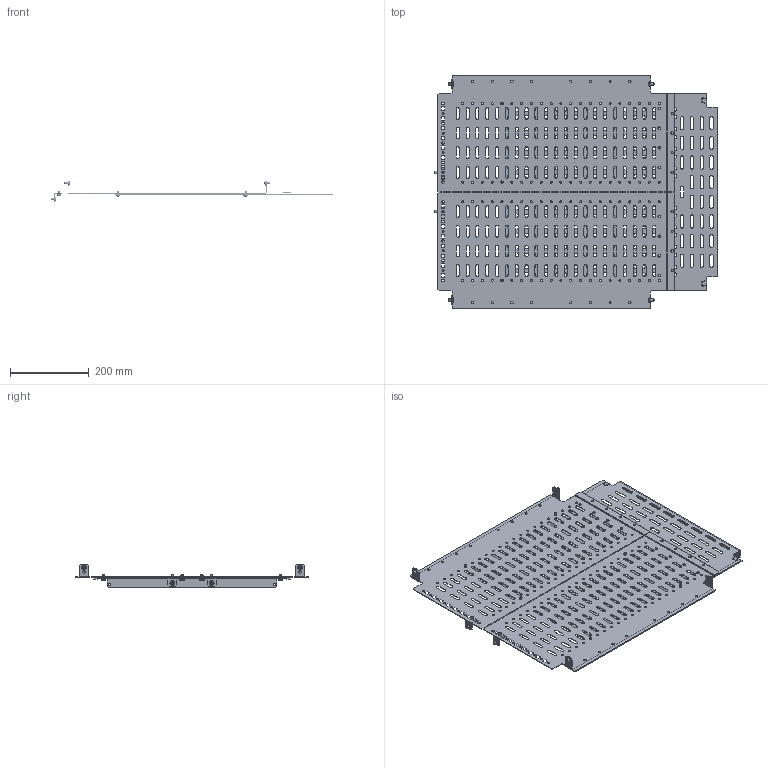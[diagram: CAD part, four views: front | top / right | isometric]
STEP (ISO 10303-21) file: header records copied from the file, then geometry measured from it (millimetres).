
FILE_DESCRIPTION (( 'STEP AP214' ), '1' );
FILE_NAME ('FO-00-SWMP-060-060 Ïåðåãîðîäêà ñåêöèîíèðîâàíèÿ ìîíòàæíîé ïàíåëè çàäíÿÿ ãîðèçîíòàëüíàÿ 600õ600 ìì â øêàô ãëóáèíîé 1000 ìì.STEP', '2025-09-04T13:47:53', ( '' ), ( '' ), 'SwSTEP 2.0', 'SolidWorks 2023', '' );
FILE_SCHEMA (( 'AUTOMOTIVE_DESIGN' ));
Length unit declared in the file: millimetre
Products named in the file (5): Уголок; Перегородка секц. монт. панели задняя  600х600; Перегородка секционирования гориз. 600x600; Болты 600; FO-00-SWMP-060-060 Перегородка секционирования монтажной панели задняя горизонтальная 600х600 мм в шкаф глубиной 1000 мм
Assembly tree (6 placements, depth 2):
  FO-00-SWMP-060-060 Перегородка секционирования монтажной панели задняя горизонтальная 600х600 мм в шкаф глубиной 1000 мм
    Перегородка секционирования гориз. 600x600
    Перегородка секц. монт. панели задняя  600х600
    Болты 600  x2
    Уголок  x2
Bounding box: 719.5 x 593.6 x 57.1 mm (x, y, z)
Volume: 850142.1 mm3; surface area: 1151451.1 mm2
Topology: 10 solids, 10 shells, 2906 faces, 8472 edges, 5616 vertices
Faces by surface type: cylinder 1574, plane 1236, cone 44, torus 40, sphere 12
Entity records: 94666 total; most frequent: CARTESIAN_POINT 16466, DIRECTION 16406, ORIENTED_EDGE 16092, EDGE_CURVE 8046, AXIS2_PLACEMENT_3D 5704, VERTEX_POINT 5344, LINE 4998, VECTOR 4998
